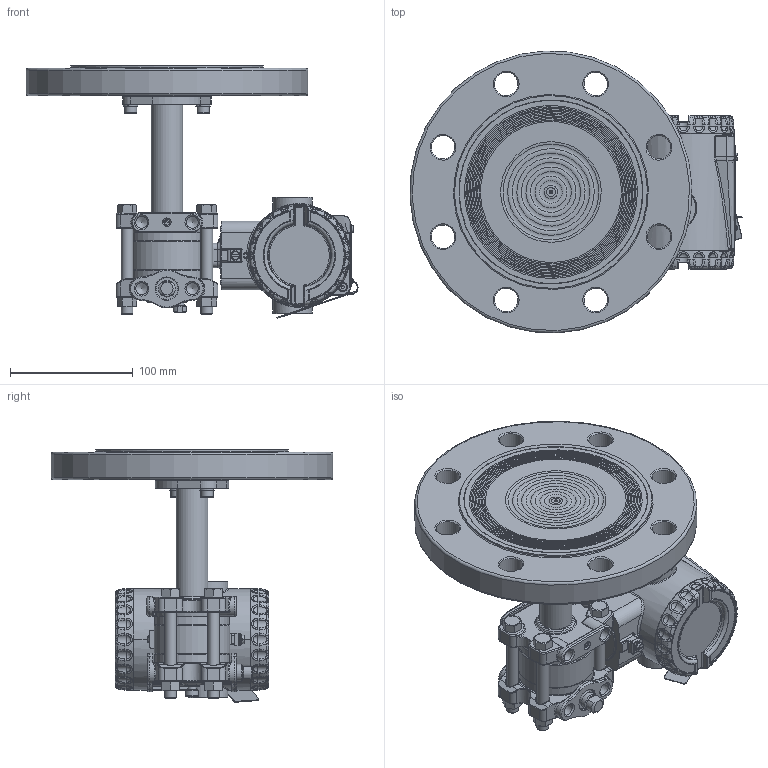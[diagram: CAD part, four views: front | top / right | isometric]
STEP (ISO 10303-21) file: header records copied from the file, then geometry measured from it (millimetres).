
FILE_DESCRIPTION(/* description */ (''),/* implementation_level */ '2;1');
FILE_NAME(/* name */ 'F:\Area\Desenvolvimento_2\Projects\Sensor\projetos\LD400-3d\dimensionais 3D clientes\LD400L\LD400L 4-150 RF ref 1-4NPT purga acima.stp',/* time_stamp */ '2023-02-23T16:39:18-03:00',/* author */ ('inventor02'),/* organization */ (''),/* preprocessor_version */ 'ST-DEVELOPER v17',/* originating_system */ 'Autodesk Inventor 2019',/* authorisation */ '');
FILE_SCHEMA (('CONFIG_CONTROL_DESIGN'));
Products named in the file (38): LD30XL 4-150 RF ref 1-4NPT purga acima; 204-0301-L-4 150 RF purga acima; nivel fx3 com baixa diferencial 1-4NPT purga acima; involucro fx0-3 apos a usinagem final; flange diferencial std purga; 101-C-7484-01 flange selo nivel VR; 201-A-0504-tubo união teste 1; bujao 1-4NPT; Sangria; Porca 3-8 x 16 UNC; Paraf. 3-8 x 16 UNC; adaptação tubo x flanges 1-1-2 a 4pol; 101-B-0161-anel cortado do tubo - teste1; 101-B-0162-flange fixação tubo; ANSI B18.3.1M - M6x1 x 16; DIN 127 - A 6; 101-C-0112-11; Carcaça 400 com tampas e plaqueta sem letras; 101-D-0845-05 carcaça LD400 sem letras; 101-B-3614-03-tampa 400 sem letras; Tampa visor 400 montada sem letras; 101-B-3612-05 tampa visor 400 sem letras; 101-A-6107; oring 2034; 00034775-0; WHW_250; DIN 915 - M6 x 10; Chapa aterramento externo; 201-A-1771-02 inserto terra recartilhado; AS 1969 - ST4,2; ISO 1207 - M4 x 8; ANSI B18.3.1M - M4x0,7 x 8; Subconjunto plaqueta 400; plaqueta 400 em branco; Parafuso da Plaqueta; Rebite da Plaqueta; 096-A-0169-03; 101-A-0502-01
Assembly tree (47 placements, depth 4):
  LD30XL 4-150 RF ref 1-4NPT purga acima
    204-0301-L-4 150 RF purga acima
      nivel fx3 com baixa diferencial 1-4NPT purga acima
        involucro fx0-3 apos a usinagem final
        flange diferencial std purga
        101-C-7484-01 flange selo nivel VR
        201-A-0504-tubo união teste 1
        DIN 915 - M6 x 10
        bujao 1-4NPT
        Sangria
        Porca 3-8 x 16 UNC  x4
        Paraf. 3-8 x 16 UNC  x4
      adaptação tubo x flanges 1-1-2 a 4pol
        101-B-0161-anel cortado do tubo - teste1
        101-B-0162-flange fixação tubo
        ANSI B18.3.1M - M6x1 x 16  x2
        DIN 127 - A 6  x2
      101-C-0112-11
    Carcaça 400 com tampas e plaqueta sem letras
      101-D-0845-05 carcaça LD400 sem letras
      101-B-3614-03-tampa 400 sem letras
      Tampa visor 400 montada sem letras
        101-B-3612-05 tampa visor 400 sem letras
        101-A-6107
        oring 2034
        00034775-0
        WHW_250
      DIN 915 - M6 x 10
      Chapa aterramento externo
      201-A-1771-02 inserto terra recartilhado
      AS 1969 - ST4,2
      ISO 1207 - M4 x 8
      ANSI B18.3.1M - M4x0,7 x 8  x2
      Subconjunto plaqueta 400
        plaqueta 400 em branco
        Parafuso da Plaqueta
        Rebite da Plaqueta
        096-A-0169-03
        101-A-0502-01
Bounding box: 270.64 x 229.78 x 205.72 mm (x, y, z)
Volume: 1536089 mm3; surface area: 365880.1 mm2
Topology: 41 solids, 41 shells, 2729 faces, 6626 edges, 3964 vertices
Faces by surface type: plane 707, cylinder 660, bspline 604, torus 458, cone 224, sphere 76
Full cylindrical faces by diameter (mm): 2 x4, 2.1 x1, 2.2 x1, 2.459 x3, 2.5 x1, 2.7 x1, 2.8 x1, 3 x4, 3.242 x3, 3.5 x1, 3.571 x1, 4 x5, 4.3 x2, 4.4 x1, 4.917 x4, 5 x1, 5.5 x3, 6 x6, 6.1 x2, 6.2 x1, 6.647 x1, 7 x5, 7.6 x2, 7.798 x4, 8 x1, 9.525 x4, 9.728 x6, 10 x2, 10.5 x8, 10.719 x2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
Entity records: 97417 total; most frequent: CARTESIAN_POINT 36875, ORIENTED_EDGE 12492, DIRECTION 12444, EDGE_CURVE 6246, AXIS2_PLACEMENT_3D 5312, VERTEX_POINT 3770, CIRCLE 3076, EDGE_LOOP 2758
